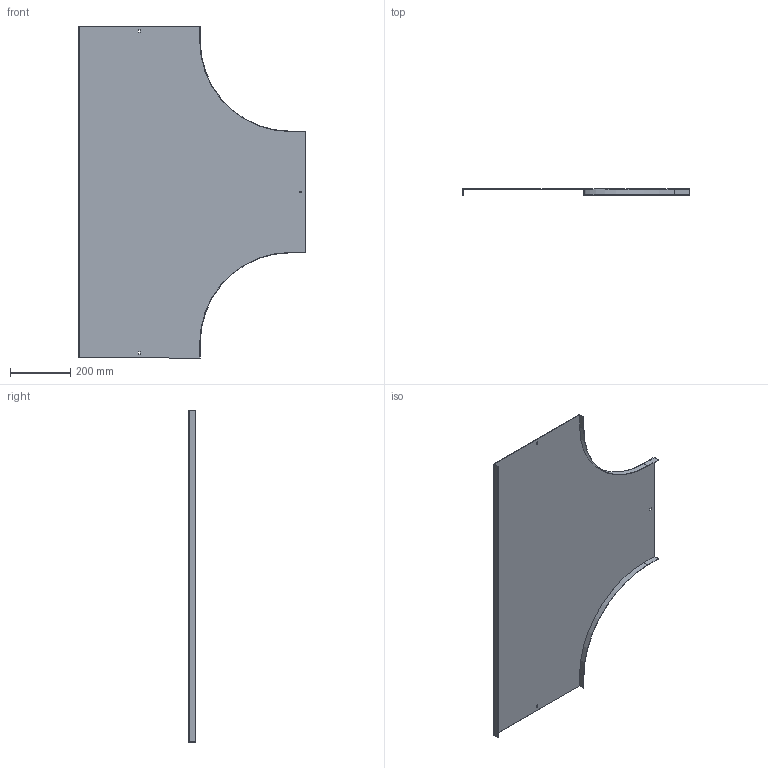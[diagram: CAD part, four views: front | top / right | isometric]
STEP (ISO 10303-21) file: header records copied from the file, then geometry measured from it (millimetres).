
FILE_DESCRIPTION (( 'STEP AP214' ), '1' );
FILE_NAME ('B2_15N3R400.step', '2025-02-21T12:07:07', ( '' ), ( '' ), 'SwSTEP 2.0', 'SolidWorks 2023', '' );
FILE_SCHEMA (( 'AUTOMOTIVE_DESIGN' ));
Length unit declared in the file: millimetre
Products named in the file (1): B2_15N3R400
Bounding box: 751.5 x 20 x 1100 mm (x, y, z)
Volume: 994882.9 mm3; surface area: 1331986.7 mm2
Topology: 1 solids, 1 shells, 34 faces, 96 edges, 64 vertices
Faces by surface type: plane 30, cylinder 4
Entity records: 1123 total; most frequent: CARTESIAN_POINT 195, ORIENTED_EDGE 192, DIRECTION 174, EDGE_CURVE 96, VECTOR 88, LINE 88, VERTEX_POINT 64, AXIS2_PLACEMENT_3D 43
